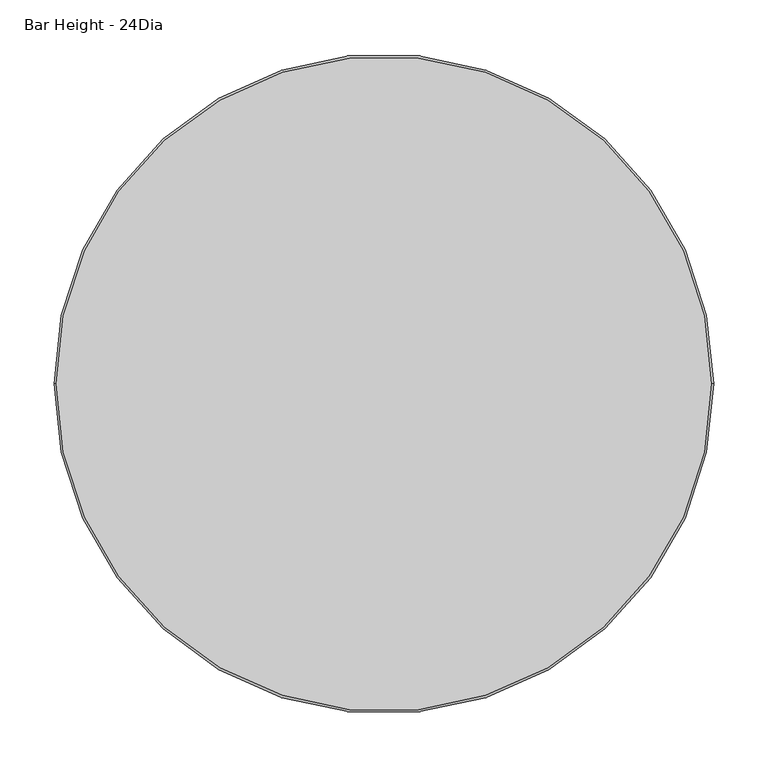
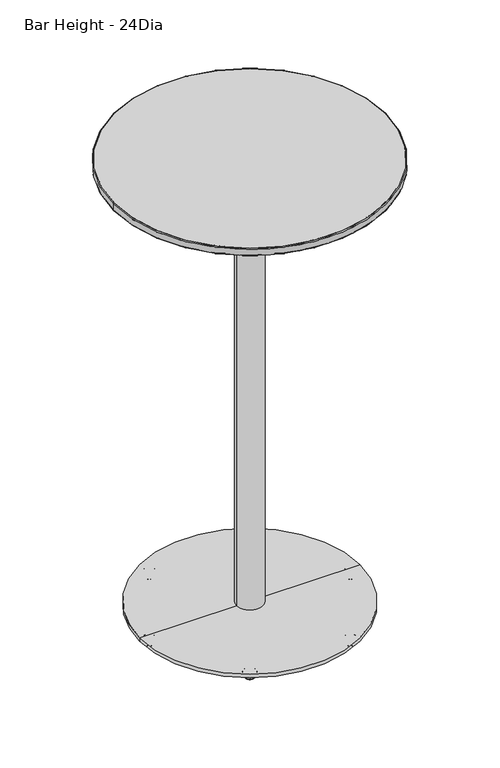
"""IFC4 building model written with IfcOpenShell, lengths in millimetres: furniture geometry, Coalesse_AM_Table_Occasional_Montara650Table_CafeHeight_Round : Bar Height - 24Dia."""

from ifc_helpers import new_model, si_unit, point, frame, origin, origin_with_axes, origin_2d, place, context, project, spatial, polyline, circle_curve, ellipse_curve, trimmed, segment, composite_curve, outline, extrude, source, transform, mapped, element, save
from ifc_brep_helpers import plane_surface, cylinder_surface, revolved_surface, advanced_brep


def bar_height_24dia_15a52b91(model_context):
    return source(origin(), model_context, "Body", "SolidModel", [
        advanced_brep(
        [(-112.4946772, 194.8464965, 0.0), (-117.6867095, 203.8393602, 0.0), (-107.302645, 185.8536329, 0.0), (-118.0731448, 204.5086859, 0.5718943), (-106.9162096, 185.1843072, 0.5718943), (-119.6988534, 207.3244957, 11.2068005), (-105.290501, 182.3684973, 11.2068005), (-119.4053894, 206.8162011, 11.9999882), (-105.5839651, 182.8767919, 11.9999882), (-112.4946772, 194.8464965, 11.9999882)],
        [
            (0, 1),
            (1, 2, circle_curve(frame((-112.4946772, 194.8464965, 0.0), z_axis=(0.0, 0.0, -1.0), x_axis=(-0.5000000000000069, 0.8660254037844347, 0.0)), 10.3840645)),
            (2, 0),
            (2, 1, circle_curve(frame((-112.4946772, 194.8464965, 0.0), z_axis=(0.0, 0.0, -1.0), x_axis=(-0.5000000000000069, 0.8660254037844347, 0.0)), 10.3840645)),
            (1, 3, circle_curve(frame((-117.6867095, 203.8393602, 0.8081846), z_axis=(0.8660254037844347, 0.5000000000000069, 0.0), x_axis=(-0.5000000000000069, 0.8660254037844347, 0.0)), 0.8081846)),
            (3, 4, circle_curve(frame((-112.4946772, 194.8464965, 0.5718943), z_axis=(0.0, 0.0, -1.0), x_axis=(-0.5000000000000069, 0.8660254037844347, 0.0)), 11.1569353)),
            (4, 2, circle_curve(frame((-107.302645, 185.8536329, 0.8081846), z_axis=(0.866025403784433, 0.5000000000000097, 0.0), x_axis=(0.5000000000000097, -0.866025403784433, 0.0)), 0.8081846)),
            (4, 3, circle_curve(frame((-112.4946772, 194.8464965, 0.5718943), z_axis=(0.0, 0.0, -1.0), x_axis=(-0.5000000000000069, 0.8660254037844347, 0.0)), 11.1569353)),
            (3, 5),
            (5, 6, circle_curve(frame((-112.4946772, 194.8464965, 11.2068005), z_axis=(0.0, 0.0, -1.0), x_axis=(-0.5000000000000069, 0.8660254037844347, 0.0)), 14.4083524)),
            (6, 4),
            (6, 5, circle_curve(frame((-112.4946772, 194.8464965, 11.2068005), z_axis=(0.0, 0.0, -1.0), x_axis=(-0.5000000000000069, 0.8660254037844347, 0.0)), 14.4083524)),
            (5, 7, circle_curve(frame((-119.4053894, 206.8162011, 11.3862424), z_axis=(0.8660254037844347, 0.5000000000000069, 0.0), x_axis=(-0.5000000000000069, 0.8660254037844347, 0.0)), 0.6137458)),
            (7, 8, circle_curve(frame((-112.4946772, 194.8464965, 11.9999882), z_axis=(0.0, 0.0, -1.0), x_axis=(-0.5000000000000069, 0.8660254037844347, 0.0)), 13.8214243)),
            (8, 6, circle_curve(frame((-105.5839651, 182.8767919, 11.3862424), z_axis=(0.866025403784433, 0.5000000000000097, 0.0), x_axis=(0.5000000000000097, -0.866025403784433, 0.0)), 0.6137458)),
            (8, 7, circle_curve(frame((-112.4946772, 194.8464965, 11.9999882), z_axis=(0.0, 0.0, -1.0), x_axis=(-0.5000000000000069, 0.8660254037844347, 0.0)), 13.8214243)),
            (7, 9),
            (9, 8),
        ],
        [
            plane_surface(frame((-112.4946772, 194.8464965, 0.0), z_axis=(0.0, 0.0, -1.0), x_axis=(-0.5000000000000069, 0.8660254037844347, 0.0))),
            revolved_surface(trimmed(ellipse_curve(frame((-117.6867095, 203.8393602, 0.8081846), z_axis=(-0.8660254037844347, -0.5000000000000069, 0.0), x_axis=(-0.5000000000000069, 0.8660254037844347, 0.0)), 0.8081846, 0.8081846), [point((-118.0731448, 204.5086859, 0.5718943))], [point((-117.6867095, 203.8393602, 0.0))], True, "CARTESIAN"), (-112.4946772, 194.8464965, 12.2086845), (0.0, 0.0, -1.0)),
            revolved_surface(polyline([(-119.6988534, 207.3244957, 11.2068005), (-118.0731448, 204.5086859, 0.5718943)]), (-112.4946772, 194.8464965, 12.2086845), (0.0, 0.0, -1.0)),
            revolved_surface(trimmed(ellipse_curve(frame((-119.4053894, 206.8162011, 11.3862424), z_axis=(-0.8660254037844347, -0.5000000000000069, 0.0), x_axis=(-0.5000000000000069, 0.8660254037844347, 0.0)), 0.6137458, 0.6137458), [point((-119.4053894, 206.8162011, 11.9999882))], [point((-119.6988534, 207.3244957, 11.2068005))], True, "CARTESIAN"), (-112.4946772, 194.8464965, 12.2086845), (0.0, 0.0, -1.0)),
            plane_surface(frame((-112.4946772, 194.8464965, 11.9999882), z_axis=(0.0, 0.0, 1.0), x_axis=(-0.5000000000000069, 0.8660254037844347, 0.0))),
        ],
        [
            (0, [[1, 2, 3]]),
            (0, [[-3, 4, -1]]),
            (1, [[-2, 5, 6, 7]]),
            (1, [[-4, -7, 8, -5]]),
            (2, [[-6, 9, 10, 11]]),
            (2, [[-8, -11, 12, -9]]),
            (3, [[-10, 13, 14, 15]]),
            (3, [[-12, -15, 16, -13]]),
            (4, [[-14, 17, 18]]),
            (4, [[-16, -18, -17]]),
        ],
    ),
        advanced_brep(
        [(107.302645, -185.8536329, 0.0), (117.6867095, -203.8393602, 0.0), (112.4946772, -194.8464965, 0.0), (106.9162096, -185.1843072, 0.5718943), (118.0731448, -204.5086859, 0.5718943), (105.290501, -182.3684973, 11.2068005), (119.6988534, -207.3244957, 11.2068005), (105.5839651, -182.8767919, 11.9999882), (119.4053894, -206.8162011, 11.9999882), (112.4946772, -194.8464965, 11.9999882)],
        [
            (0, 1, circle_curve(frame((112.4946772, -194.8464965, 0.0), z_axis=(0.0, 0.0, -1.0), x_axis=(0.5000000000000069, -0.8660254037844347, 0.0)), 10.3840645)),
            (1, 2),
            (2, 0),
            (1, 0, circle_curve(frame((112.4946772, -194.8464965, 0.0), z_axis=(0.0, 0.0, -1.0), x_axis=(0.5000000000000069, -0.8660254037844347, 0.0)), 10.3840645)),
            (3, 4, circle_curve(frame((112.4946772, -194.8464965, 0.5718943), z_axis=(0.0, 0.0, -1.0), x_axis=(0.5000000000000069, -0.8660254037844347, 0.0)), 11.1569353)),
            (4, 1, circle_curve(frame((117.6867095, -203.8393602, 0.8081846), z_axis=(0.8660254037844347, 0.5000000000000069, 0.0), x_axis=(0.5000000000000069, -0.8660254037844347, 0.0)), 0.8081846)),
            (0, 3, circle_curve(frame((107.302645, -185.8536329, 0.8081846), z_axis=(0.8660254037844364, 0.5000000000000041, 0.0), x_axis=(-0.5000000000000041, 0.8660254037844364, 0.0)), 0.8081846)),
            (4, 3, circle_curve(frame((112.4946772, -194.8464965, 0.5718943), z_axis=(0.0, 0.0, -1.0), x_axis=(0.5000000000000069, -0.8660254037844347, 0.0)), 11.1569353)),
            (5, 6, circle_curve(frame((112.4946772, -194.8464965, 11.2068005), z_axis=(0.0, 0.0, -1.0), x_axis=(0.5000000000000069, -0.8660254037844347, 0.0)), 14.4083524)),
            (6, 4),
            (3, 5),
            (6, 5, circle_curve(frame((112.4946772, -194.8464965, 11.2068005), z_axis=(0.0, 0.0, -1.0), x_axis=(0.5000000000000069, -0.8660254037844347, 0.0)), 14.4083524)),
            (7, 8, circle_curve(frame((112.4946772, -194.8464965, 11.9999882), z_axis=(0.0, 0.0, -1.0), x_axis=(0.5000000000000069, -0.8660254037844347, 0.0)), 13.8214243)),
            (8, 6, circle_curve(frame((119.4053894, -206.8162011, 11.3862424), z_axis=(0.8660254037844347, 0.5000000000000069, 0.0), x_axis=(0.5000000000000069, -0.8660254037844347, 0.0)), 0.6137458)),
            (5, 7, circle_curve(frame((105.5839651, -182.8767919, 11.3862424), z_axis=(0.8660254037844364, 0.5000000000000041, 0.0), x_axis=(-0.5000000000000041, 0.8660254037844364, 0.0)), 0.6137458)),
            (8, 7, circle_curve(frame((112.4946772, -194.8464965, 11.9999882), z_axis=(0.0, 0.0, -1.0), x_axis=(0.5000000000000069, -0.8660254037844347, 0.0)), 13.8214243)),
            (9, 8),
            (7, 9),
        ],
        [
            plane_surface(frame((112.4946772, -194.8464965, 0.0), z_axis=(0.0, 0.0, -1.0), x_axis=(0.5000000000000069, -0.8660254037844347, 0.0))),
            revolved_surface(trimmed(ellipse_curve(frame((117.6867095, -203.8393602, 0.8081846), z_axis=(-0.8660254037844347, -0.5000000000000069, 0.0), x_axis=(0.5000000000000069, -0.8660254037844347, 0.0)), 0.8081846, 0.8081846), [point((117.6867095, -203.8393602, 0.0))], [point((118.0731448, -204.5086859, 0.5718943))], True, "CARTESIAN"), (112.4946772, -194.8464965, 12.2086845), (0.0, 0.0, 1.0)),
            revolved_surface(polyline([(118.0731448, -204.5086859, 0.5718943), (119.6988534, -207.3244957, 11.2068005)]), (112.4946772, -194.8464965, 12.2086845), (0.0, 0.0, 1.0)),
            revolved_surface(trimmed(ellipse_curve(frame((119.4053894, -206.8162011, 11.3862424), z_axis=(-0.8660254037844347, -0.5000000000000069, 0.0), x_axis=(0.5000000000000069, -0.8660254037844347, 0.0)), 0.6137458, 0.6137458), [point((119.6988534, -207.3244957, 11.2068005))], [point((119.4053894, -206.8162011, 11.9999882))], True, "CARTESIAN"), (112.4946772, -194.8464965, 12.2086845), (0.0, 0.0, 1.0)),
            plane_surface(frame((112.4946772, -194.8464965, 11.9999882), z_axis=(0.0, 0.0, 1.0), x_axis=(0.5000000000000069, -0.8660254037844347, 0.0))),
        ],
        [
            (0, [[1, 2, 3]]),
            (0, [[4, -3, -2]]),
            (1, [[5, 6, -1, 7]]),
            (1, [[8, -7, -4, -6]]),
            (2, [[9, 10, -5, 11]]),
            (2, [[12, -11, -8, -10]]),
            (3, [[13, 14, -9, 15]]),
            (3, [[16, -15, -12, -14]]),
            (4, [[17, -13, 18]]),
            (4, [[-18, -16, -17]]),
        ],
    ),
        advanced_brep(
        [(104.863739, 174.0655874, 0.0), (115.2478035, 192.0513148, 0.0), (110.0557713, 183.0584511, 0.0), (104.4773036, 173.3962617, 0.5718943), (115.6342389, 192.7206405, 0.5718943), (102.8515951, 170.5804519, 11.2068005), (117.2599475, 195.5364503, 11.2068005), (103.1450591, 171.0887465, 11.9999882), (116.9664834, 195.0281557, 11.9999882), (110.0557713, 183.0584511, 11.9999882)],
        [
            (0, 1, circle_curve(frame((110.0557713, 183.0584511, 0.0), z_axis=(0.0, 0.0, -1.0), x_axis=(0.5000000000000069, 0.8660254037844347, 0.0)), 10.3840645)),
            (1, 2),
            (2, 0),
            (1, 0, circle_curve(frame((110.0557713, 183.0584511, 0.0), z_axis=(0.0, 0.0, -1.0), x_axis=(0.5000000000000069, 0.8660254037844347, 0.0)), 10.3840645)),
            (3, 4, circle_curve(frame((110.0557713, 183.0584511, 0.5718943), z_axis=(0.0, 0.0, -1.0), x_axis=(0.5000000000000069, 0.8660254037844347, 0.0)), 11.1569353)),
            (4, 1, circle_curve(frame((115.2478035, 192.0513148, 0.8081846), z_axis=(-0.8660254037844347, 0.5000000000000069, 0.0), x_axis=(0.5000000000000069, 0.8660254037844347, 0.0)), 0.8081846)),
            (0, 3, circle_curve(frame((104.863739, 174.0655874, 0.8081846), z_axis=(-0.866025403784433, 0.5000000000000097, 0.0), x_axis=(-0.5000000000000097, -0.866025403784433, 0.0)), 0.8081846)),
            (4, 3, circle_curve(frame((110.0557713, 183.0584511, 0.5718943), z_axis=(0.0, 0.0, -1.0), x_axis=(0.5000000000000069, 0.8660254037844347, 0.0)), 11.1569353)),
            (5, 6, circle_curve(frame((110.0557713, 183.0584511, 11.2068005), z_axis=(0.0, 0.0, -1.0), x_axis=(0.5000000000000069, 0.8660254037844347, 0.0)), 14.4083524)),
            (6, 4),
            (3, 5),
            (6, 5, circle_curve(frame((110.0557713, 183.0584511, 11.2068005), z_axis=(0.0, 0.0, -1.0), x_axis=(0.5000000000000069, 0.8660254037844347, 0.0)), 14.4083524)),
            (7, 8, circle_curve(frame((110.0557713, 183.0584511, 11.9999882), z_axis=(0.0, 0.0, -1.0), x_axis=(0.5000000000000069, 0.8660254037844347, 0.0)), 13.8214243)),
            (8, 6, circle_curve(frame((116.9664834, 195.0281557, 11.3862424), z_axis=(-0.8660254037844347, 0.5000000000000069, 0.0), x_axis=(0.5000000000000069, 0.8660254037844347, 0.0)), 0.6137458)),
            (5, 7, circle_curve(frame((103.1450591, 171.0887465, 11.3862424), z_axis=(-0.866025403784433, 0.5000000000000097, 0.0), x_axis=(-0.5000000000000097, -0.866025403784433, 0.0)), 0.6137458)),
            (8, 7, circle_curve(frame((110.0557713, 183.0584511, 11.9999882), z_axis=(0.0, 0.0, -1.0), x_axis=(0.5000000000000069, 0.8660254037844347, 0.0)), 13.8214243)),
            (9, 8),
            (7, 9),
        ],
        [
            plane_surface(frame((110.0557713, 183.0584511, 0.0), z_axis=(0.0, 0.0, -1.0), x_axis=(0.5000000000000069, 0.8660254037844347, 0.0))),
            revolved_surface(trimmed(ellipse_curve(frame((115.2478035, 192.0513148, 0.8081846), z_axis=(0.8660254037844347, -0.5000000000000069, 0.0), x_axis=(0.5000000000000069, 0.8660254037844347, 0.0)), 0.8081846, 0.8081846), [point((115.2478035, 192.0513148, 0.0))], [point((115.6342389, 192.7206405, 0.5718943))], True, "CARTESIAN"), (110.0557713, 183.0584511, 12.2086845), (0.0, 0.0, 1.0)),
            revolved_surface(polyline([(115.6342389, 192.7206405, 0.5718943), (117.2599475, 195.5364503, 11.2068005)]), (110.0557713, 183.0584511, 12.2086845), (0.0, 0.0, 1.0)),
            revolved_surface(trimmed(ellipse_curve(frame((116.9664834, 195.0281557, 11.3862424), z_axis=(0.8660254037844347, -0.5000000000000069, 0.0), x_axis=(0.5000000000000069, 0.8660254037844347, 0.0)), 0.6137458, 0.6137458), [point((117.2599475, 195.5364503, 11.2068005))], [point((116.9664834, 195.0281557, 11.9999882))], True, "CARTESIAN"), (110.0557713, 183.0584511, 12.2086845), (0.0, 0.0, 1.0)),
            plane_surface(frame((110.0557713, 183.0584511, 11.9999882), z_axis=(0.0, 0.0, 1.0), x_axis=(0.5000000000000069, 0.8660254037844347, 0.0))),
        ],
        [
            (0, [[1, 2, 3]]),
            (0, [[4, -3, -2]]),
            (1, [[5, 6, -1, 7]]),
            (1, [[8, -7, -4, -6]]),
            (2, [[9, 10, -5, 11]]),
            (2, [[12, -11, -8, -10]]),
            (3, [[13, 14, -9, 15]]),
            (3, [[16, -15, -12, -14]]),
            (4, [[17, -13, 18]]),
            (4, [[-18, -16, -17]]),
        ],
    ),
        advanced_brep(
        [(-112.4946772, -194.8464965, 0.0), (-117.6867095, -203.8393602, 0.0), (-107.302645, -185.8536329, 0.0), (-118.0731448, -204.5086859, 0.5718943), (-106.9162096, -185.1843072, 0.5718943), (-119.6988534, -207.3244957, 11.2068005), (-105.290501, -182.3684973, 11.2068005), (-119.4053894, -206.8162011, 11.9999882), (-105.5839651, -182.8767919, 11.9999882), (-112.4946772, -194.8464965, 11.9999882)],
        [
            (0, 1),
            (1, 2, circle_curve(frame((-112.4946772, -194.8464965, 0.0), z_axis=(0.0, 0.0, -1.0), x_axis=(-0.5000000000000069, -0.8660254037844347, 0.0)), 10.3840645)),
            (2, 0),
            (2, 1, circle_curve(frame((-112.4946772, -194.8464965, 0.0), z_axis=(0.0, 0.0, -1.0), x_axis=(-0.5000000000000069, -0.8660254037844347, 0.0)), 10.3840645)),
            (1, 3, circle_curve(frame((-117.6867095, -203.8393602, 0.8081846), z_axis=(-0.8660254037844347, 0.5000000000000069, 0.0), x_axis=(-0.5000000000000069, -0.8660254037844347, 0.0)), 0.8081846)),
            (3, 4, circle_curve(frame((-112.4946772, -194.8464965, 0.5718943), z_axis=(0.0, 0.0, -1.0), x_axis=(-0.5000000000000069, -0.8660254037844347, 0.0)), 11.1569353)),
            (4, 2, circle_curve(frame((-107.302645, -185.8536329, 0.8081846), z_axis=(-0.8660254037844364, 0.5000000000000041, 0.0), x_axis=(0.5000000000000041, 0.8660254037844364, 0.0)), 0.8081846)),
            (4, 3, circle_curve(frame((-112.4946772, -194.8464965, 0.5718943), z_axis=(0.0, 0.0, -1.0), x_axis=(-0.5000000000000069, -0.8660254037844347, 0.0)), 11.1569353)),
            (3, 5),
            (5, 6, circle_curve(frame((-112.4946772, -194.8464965, 11.2068005), z_axis=(0.0, 0.0, -1.0), x_axis=(-0.5000000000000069, -0.8660254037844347, 0.0)), 14.4083524)),
            (6, 4),
            (6, 5, circle_curve(frame((-112.4946772, -194.8464965, 11.2068005), z_axis=(0.0, 0.0, -1.0), x_axis=(-0.5000000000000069, -0.8660254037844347, 0.0)), 14.4083524)),
            (5, 7, circle_curve(frame((-119.4053894, -206.8162011, 11.3862424), z_axis=(-0.8660254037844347, 0.5000000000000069, 0.0), x_axis=(-0.5000000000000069, -0.8660254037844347, 0.0)), 0.6137458)),
            (7, 8, circle_curve(frame((-112.4946772, -194.8464965, 11.9999882), z_axis=(0.0, 0.0, -1.0), x_axis=(-0.5000000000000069, -0.8660254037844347, 0.0)), 13.8214243)),
            (8, 6, circle_curve(frame((-105.5839651, -182.8767919, 11.3862424), z_axis=(-0.8660254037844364, 0.5000000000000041, 0.0), x_axis=(0.5000000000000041, 0.8660254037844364, 0.0)), 0.6137458)),
            (8, 7, circle_curve(frame((-112.4946772, -194.8464965, 11.9999882), z_axis=(0.0, 0.0, -1.0), x_axis=(-0.5000000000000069, -0.8660254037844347, 0.0)), 13.8214243)),
            (7, 9),
            (9, 8),
        ],
        [
            plane_surface(frame((-112.4946772, -194.8464965, 0.0), z_axis=(0.0, 0.0, -1.0), x_axis=(-0.5000000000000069, -0.8660254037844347, 0.0))),
            revolved_surface(trimmed(ellipse_curve(frame((-117.6867095, -203.8393602, 0.8081846), z_axis=(0.8660254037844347, -0.5000000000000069, 0.0), x_axis=(-0.5000000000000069, -0.8660254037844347, 0.0)), 0.8081846, 0.8081846), [point((-118.0731448, -204.5086859, 0.5718943))], [point((-117.6867095, -203.8393602, 0.0))], True, "CARTESIAN"), (-112.4946772, -194.8464965, 12.2086845), (0.0, 0.0, -1.0)),
            revolved_surface(polyline([(-119.6988534, -207.3244957, 11.2068005), (-118.0731448, -204.5086859, 0.5718943)]), (-112.4946772, -194.8464965, 12.2086845), (0.0, 0.0, -1.0)),
            revolved_surface(trimmed(ellipse_curve(frame((-119.4053894, -206.8162011, 11.3862424), z_axis=(0.8660254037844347, -0.5000000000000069, 0.0), x_axis=(-0.5000000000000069, -0.8660254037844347, 0.0)), 0.6137458, 0.6137458), [point((-119.4053894, -206.8162011, 11.9999882))], [point((-119.6988534, -207.3244957, 11.2068005))], True, "CARTESIAN"), (-112.4946772, -194.8464965, 12.2086845), (0.0, 0.0, -1.0)),
            plane_surface(frame((-112.4946772, -194.8464965, 11.9999882), z_axis=(0.0, 0.0, 1.0), x_axis=(-0.5000000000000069, -0.8660254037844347, 0.0))),
        ],
        [
            (0, [[1, 2, 3]]),
            (0, [[-3, 4, -1]]),
            (1, [[-2, 5, 6, 7]]),
            (1, [[-4, -7, 8, -5]]),
            (2, [[-6, 9, 10, 11]]),
            (2, [[-8, -11, 12, -9]]),
            (3, [[-10, 13, 14, 15]]),
            (3, [[-12, -15, 16, -13]]),
            (4, [[-14, 17, 18]]),
            (4, [[-16, -18, -17]]),
        ],
    ),
        advanced_brep(
        [(214.6052899, 0.0, 0.0), (235.3734189, 0.0, 0.0), (224.9893544, 0.0, 0.0), (213.8324192, 0.0, 0.5718943), (236.1462897, 0.0, 0.5718943), (210.5810021, 0.0, 11.2068005), (239.3977068, 0.0, 11.2068005), (211.1679301, 0.0, 11.9999882), (238.8107788, 0.0, 11.9999882), (224.9893544, 0.0, 11.9999882)],
        [
            (0, 1, circle_curve(frame((224.9893544, 0.0, 0.0), z_axis=(0.0, 0.0, -1.0), x_axis=(1.0, 0.0, 0.0)), 10.3840645)),
            (1, 2),
            (2, 0),
            (1, 0, circle_curve(frame((224.9893544, 0.0, 0.0), z_axis=(0.0, 0.0, -1.0), x_axis=(1.0, 0.0, 0.0)), 10.3840645)),
            (3, 4, circle_curve(frame((224.9893544, 0.0, 0.5718943), z_axis=(0.0, 0.0, -1.0), x_axis=(1.0, 0.0, 0.0)), 11.1569353)),
            (4, 1, circle_curve(frame((235.3734189, 0.0, 0.8081846), z_axis=(0.0, 1.0, 0.0), x_axis=(1.0, 0.0, 0.0)), 0.8081846)),
            (0, 3, circle_curve(frame((214.6052899, 0.0, 0.8081846), z_axis=(0.0, 1.0, 0.0), x_axis=(-1.0, 0.0, 0.0)), 0.8081846)),
            (4, 3, circle_curve(frame((224.9893544, 0.0, 0.5718943), z_axis=(0.0, 0.0, -1.0), x_axis=(1.0, 0.0, 0.0)), 11.1569353)),
            (5, 6, circle_curve(frame((224.9893544, 0.0, 11.2068005), z_axis=(0.0, 0.0, -1.0), x_axis=(1.0, 0.0, 0.0)), 14.4083524)),
            (6, 4),
            (3, 5),
            (6, 5, circle_curve(frame((224.9893544, 0.0, 11.2068005), z_axis=(0.0, 0.0, -1.0), x_axis=(1.0, 0.0, 0.0)), 14.4083524)),
            (7, 8, circle_curve(frame((224.9893544, 0.0, 11.9999882), z_axis=(0.0, 0.0, -1.0), x_axis=(1.0, 0.0, 0.0)), 13.8214243)),
            (8, 6, circle_curve(frame((238.8107788, 0.0, 11.3862424), z_axis=(0.0, 1.0, 0.0), x_axis=(1.0, 0.0, 0.0)), 0.6137458)),
            (5, 7, circle_curve(frame((211.1679301, 0.0, 11.3862424), z_axis=(0.0, 1.0, 0.0), x_axis=(-1.0, 0.0, 0.0)), 0.6137458)),
            (8, 7, circle_curve(frame((224.9893544, 0.0, 11.9999882), z_axis=(0.0, 0.0, -1.0), x_axis=(1.0, 0.0, 0.0)), 13.8214243)),
            (9, 8),
            (7, 9),
        ],
        [
            plane_surface(frame((224.9893544, 0.0, 0.0), z_axis=(0.0, 0.0, -1.0), x_axis=(1.0, 0.0, 0.0))),
            revolved_surface(trimmed(ellipse_curve(frame((235.3734189, 0.0, 0.8081846), z_axis=(0.0, -1.0, 0.0), x_axis=(1.0, 0.0, 0.0)), 0.8081846, 0.8081846), [point((235.3734189, 0.0, 0.0))], [point((236.1462897, 0.0, 0.5718943))], True, "CARTESIAN"), (224.9893544, 0.0, 12.2086845), (0.0, 0.0, 1.0)),
            revolved_surface(polyline([(236.1462897, 0.0, 0.5718943), (239.3977068, 0.0, 11.2068005)]), (224.9893544, 0.0, 12.2086845), (0.0, 0.0, 1.0)),
            revolved_surface(trimmed(ellipse_curve(frame((238.8107788, 0.0, 11.3862424), z_axis=(0.0, -1.0, 0.0), x_axis=(1.0, 0.0, 0.0)), 0.6137458, 0.6137458), [point((239.3977068, 0.0, 11.2068005))], [point((238.8107788, 0.0, 11.9999882))], True, "CARTESIAN"), (224.9893544, 0.0, 12.2086845), (0.0, 0.0, 1.0)),
            plane_surface(frame((224.9893544, 0.0, 11.9999882), z_axis=(0.0, 0.0, 1.0), x_axis=(1.0, 0.0, 0.0))),
        ],
        [
            (0, [[1, 2, 3]]),
            (0, [[4, -3, -2]]),
            (1, [[5, 6, -1, 7]]),
            (1, [[8, -7, -4, -6]]),
            (2, [[9, 10, -5, 11]]),
            (2, [[12, -11, -8, -10]]),
            (3, [[13, 14, -9, 15]]),
            (3, [[16, -15, -12, -14]]),
            (4, [[17, -13, 18]]),
            (4, [[-18, -16, -17]]),
        ],
    ),
        advanced_brep(
        [(-258.064, 0.0, 1036.830027), (258.064, 0.0, 1036.830027), (-302.768, 0.0, 1049.095891), (302.768, 0.0, 1049.095891)],
        [
            (0, 1, circle_curve(frame((0.0, 0.0, 1036.830027), z_axis=(0.0, 0.0, -1.0), x_axis=(-1.0, 0.0, 0.0)), 258.064)),
            (1, 0, circle_curve(frame((0.0, 0.0, 1036.830027), z_axis=(0.0, 0.0, -1.0), x_axis=(1.0, 0.0, 0.0)), 258.064)),
            (2, 3, circle_curve(frame((0.0, 0.0, 1049.095891), z_axis=(0.0, 0.0, 1.0), x_axis=(1.0, 0.0, 0.0)), 302.768)),
            (3, 2, circle_curve(frame((0.0, 0.0, 1049.095891), z_axis=(0.0, 0.0, 1.0), x_axis=(-1.0, 0.0, 0.0)), 302.768)),
            (2, 0),
            (1, 3),
        ],
        [
            plane_surface(frame((0.0, 0.0, 1036.830027), z_axis=(0.0, 0.0, -1.0), x_axis=(0.0, -1.0, 0.0))),
            plane_surface(frame((0.0, 0.0, 1049.095891), z_axis=(0.0, 0.0, 1.0), x_axis=(0.0, -1.0, 0.0))),
            revolved_surface(polyline([(258.0639998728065, 0.0, 1036.830027), (302.768, 0.0, 1049.095891)]), (0.0, 0.0, 966.0225396), (0.0, 0.0, 1.0)),
            revolved_surface(polyline([(-258.0639998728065, 0.0, 1036.830027), (-302.768, 0.0, 1049.095891)]), (0.0, 0.0, 966.0225396), (0.0, 0.0, 1.0)),
        ],
        [
            (0, [[1, 2]]),
            (1, [[3, 4]]),
            (2, [[-3, 5, -2, 6]]),
            (3, [[-4, -6, -1, -5]]),
        ],
    ),
        extrude(outline(composite_curve([segment(trimmed(circle_curve(origin_2d(), 302.768), [point((-302.768, 0.0))], [point((302.768, 0.0))], False, "CARTESIAN"), True, "CONTINUOUS"), segment(trimmed(circle_curve(origin_2d(), 302.768), [point((302.768, 0.0))], [point((-302.768, 0.0))], False, "CARTESIAN"), True, "CONTINUOUS")], self_intersect=False)), frame((0.0, 0.0, 1049.095891), z_axis=(0.0, 0.0, 1.0), x_axis=(1.0, 0.0, 0.0)), (0.0, 0.0, 1.0), 17.704109),
        advanced_brep(
        [(-224.9893544, 0.0, 0.0), (-235.3734189, 0.0, 0.0), (-214.6052899, 0.0, 0.0), (-236.1462897, 0.0, 0.5718943), (-213.8324192, 0.0, 0.5718943), (-239.3977068, 0.0, 11.2068005), (-210.5810021, 0.0, 11.2068005), (-238.8107788, 0.0, 11.9999882), (-211.1679301, 0.0, 11.9999882), (-224.9893544, 0.0, 11.9999882)],
        [
            (0, 1),
            (1, 2, circle_curve(frame((-224.9893544, 0.0, 0.0), z_axis=(0.0, 0.0, -1.0), x_axis=(-1.0, 0.0, 0.0)), 10.3840645)),
            (2, 0),
            (2, 1, circle_curve(frame((-224.9893544, 0.0, 0.0), z_axis=(0.0, 0.0, -1.0), x_axis=(-1.0, 0.0, 0.0)), 10.3840645)),
            (1, 3, circle_curve(frame((-235.3734189, 0.0, 0.8081846), z_axis=(0.0, 1.0, 0.0), x_axis=(-1.0, 0.0, 0.0)), 0.8081846)),
            (3, 4, circle_curve(frame((-224.9893544, 0.0, 0.5718943), z_axis=(0.0, 0.0, -1.0), x_axis=(-1.0, 0.0, 0.0)), 11.1569353)),
            (4, 2, circle_curve(frame((-214.6052899, 0.0, 0.8081846), z_axis=(0.0, 1.0, 0.0), x_axis=(1.0, 0.0, 0.0)), 0.8081846)),
            (4, 3, circle_curve(frame((-224.9893544, 0.0, 0.5718943), z_axis=(0.0, 0.0, -1.0), x_axis=(-1.0, 0.0, 0.0)), 11.1569353)),
            (3, 5),
            (5, 6, circle_curve(frame((-224.9893544, 0.0, 11.2068005), z_axis=(0.0, 0.0, -1.0), x_axis=(-1.0, 0.0, 0.0)), 14.4083524)),
            (6, 4),
            (6, 5, circle_curve(frame((-224.9893544, 0.0, 11.2068005), z_axis=(0.0, 0.0, -1.0), x_axis=(-1.0, 0.0, 0.0)), 14.4083524)),
            (5, 7, circle_curve(frame((-238.8107788, 0.0, 11.3862424), z_axis=(0.0, 1.0, 0.0), x_axis=(-1.0, 0.0, 0.0)), 0.6137458)),
            (7, 8, circle_curve(frame((-224.9893544, 0.0, 11.9999882), z_axis=(0.0, 0.0, -1.0), x_axis=(-1.0, 0.0, 0.0)), 13.8214243)),
            (8, 6, circle_curve(frame((-211.1679301, 0.0, 11.3862424), z_axis=(0.0, 1.0, 0.0), x_axis=(1.0, 0.0, 0.0)), 0.6137458)),
            (8, 7, circle_curve(frame((-224.9893544, 0.0, 11.9999882), z_axis=(0.0, 0.0, -1.0), x_axis=(-1.0, 0.0, 0.0)), 13.8214243)),
            (7, 9),
            (9, 8),
        ],
        [
            plane_surface(frame((-224.9893544, 0.0, 0.0), z_axis=(0.0, 0.0, -1.0), x_axis=(-1.0, 0.0, 0.0))),
            revolved_surface(trimmed(ellipse_curve(frame((-235.3734189, 0.0, 0.8081846), z_axis=(0.0, -1.0, 0.0), x_axis=(-1.0, 0.0, 0.0)), 0.8081846, 0.8081846), [point((-236.1462897, 0.0, 0.5718943))], [point((-235.3734189, 0.0, 0.0))], True, "CARTESIAN"), (-224.9893544, 0.0, 12.2086845), (0.0, 0.0, -1.0)),
            revolved_surface(polyline([(-239.3977068, 0.0, 11.2068005), (-236.1462897, 0.0, 0.5718943)]), (-224.9893544, 0.0, 12.2086845), (0.0, 0.0, -1.0)),
            revolved_surface(trimmed(ellipse_curve(frame((-238.8107788, 0.0, 11.3862424), z_axis=(0.0, -1.0, 0.0), x_axis=(-1.0, 0.0, 0.0)), 0.6137458, 0.6137458), [point((-238.8107788, 0.0, 11.9999882))], [point((-239.3977068, 0.0, 11.2068005))], True, "CARTESIAN"), (-224.9893544, 0.0, 12.2086845), (0.0, 0.0, -1.0)),
            plane_surface(frame((-224.9893544, 0.0, 11.9999882), z_axis=(0.0, 0.0, 1.0), x_axis=(-1.0, 0.0, 0.0))),
        ],
        [
            (0, [[1, 2, 3]]),
            (0, [[-3, 4, -1]]),
            (1, [[-2, 5, 6, 7]]),
            (1, [[-4, -7, 8, -5]]),
            (2, [[-6, 9, 10, 11]]),
            (2, [[-8, -11, 12, -9]]),
            (3, [[-10, 13, 14, 15]]),
            (3, [[-12, -15, 16, -13]]),
            (4, [[-14, 17, 18]]),
            (4, [[-16, -18, -17]]),
        ],
    ),
        advanced_brep(
        [(304.8438665, 0.0, 1051.0278467), (-304.8438665, 0.0, 1051.0278467), (-302.768, 0.0, 1049.095891), (302.768, 0.0, 1049.095891), (304.8438665, 0.0, 1064.7999283), (-304.8438665, 0.0, 1064.7999283), (302.768, 0.0, 1066.8), (-302.768, 0.0, 1066.8)],
        [
            (0, 1, circle_curve(frame((0.0, 0.0, 1051.0278467), z_axis=(0.0, 0.0, -1.0), x_axis=(-1.0, 0.0, 0.0)), 304.8438665)),
            (1, 2, circle_curve(frame((-302.9069224, 0.0, 1051.0278467), z_axis=(0.0, -1.0, 0.0), x_axis=(1.0, 0.0, 0.0)), 1.9369441)),
            (2, 3, circle_curve(frame((0.0, 0.0, 1049.095891), z_axis=(0.0, 0.0, 1.0), x_axis=(-1.0, 0.0, 0.0)), 302.768)),
            (3, 0, circle_curve(frame((302.9069224, 0.0, 1051.0278467), z_axis=(0.0, -1.0, 0.0), x_axis=(-1.0, 0.0, 0.0)), 1.9369441)),
            (4, 5, circle_curve(frame((0.0, 0.0, 1064.7999283), z_axis=(0.0, 0.0, -1.0), x_axis=(-1.0, 0.0, 0.0)), 304.8438665)),
            (5, 1),
            (0, 4),
            (6, 7, circle_curve(frame((0.0, 0.0, 1066.8), z_axis=(0.0, 0.0, -1.0), x_axis=(-1.0, 0.0, 0.0)), 302.768)),
            (7, 5, circle_curve(frame((-302.8424111, 0.0, 1064.7999283), z_axis=(0.0, -1.0, 0.0), x_axis=(1.0, 0.0, 0.0)), 2.0014554)),
            (4, 6, circle_curve(frame((302.8424111, 0.0, 1064.7999283), z_axis=(0.0, -1.0, 0.0), x_axis=(-1.0, 0.0, 0.0)), 2.0014554)),
            (2, 7),
            (6, 3),
            (1, 0, circle_curve(frame((0.0, 0.0, 1051.0278467), z_axis=(0.0, 0.0, -1.0), x_axis=(1.0, 0.0, 0.0)), 304.8438665)),
            (3, 2, circle_curve(frame((0.0, 0.0, 1049.095891), z_axis=(0.0, 0.0, 1.0), x_axis=(1.0, 0.0, 0.0)), 302.768)),
            (5, 4, circle_curve(frame((0.0, 0.0, 1064.7999283), z_axis=(0.0, 0.0, -1.0), x_axis=(1.0, 0.0, 0.0)), 304.8438665)),
            (7, 6, circle_curve(frame((0.0, 0.0, 1066.8), z_axis=(0.0, 0.0, -1.0), x_axis=(1.0, 0.0, 0.0)), 302.768)),
        ],
        [
            revolved_surface(trimmed(ellipse_curve(frame((-302.9069224, 0.0, 1051.0278467), z_axis=(0.0, 1.0, 0.0), x_axis=(1.0, 0.0, 0.0)), 1.9369441, 1.9369441), [point((-302.768, 0.0, 1049.095891))], [point((-304.8438665, 0.0, 1051.0278467))], True, "CARTESIAN"), (0.0, 0.0, 0.0), (0.0, 0.0, 1.0)),
            cylinder_surface(frame((0.0, 0.0, 0.0), z_axis=(0.0, 0.0, 1.0), x_axis=(-1.0, 0.0, 0.0)), 304.8438665),
            revolved_surface(trimmed(ellipse_curve(frame((-302.8424111, 0.0, 1064.7999283), z_axis=(0.0, 1.0, 0.0), x_axis=(1.0, 0.0, 0.0)), 2.0014554, 2.0014554), [point((-304.8438665, 0.0, 1064.7999283))], [point((-302.768, 0.0, 1066.8))], True, "CARTESIAN"), (0.0, 0.0, 0.0), (0.0, 0.0, 1.0)),
            revolved_surface(polyline([(-302.768, 0.0, 1066.8), (-302.768, 0.0, 1049.095891)]), (0.0, 0.0, 0.0), (0.0, 0.0, 1.0)),
            revolved_surface(trimmed(ellipse_curve(frame((302.9069224, 0.0, 1051.0278467), z_axis=(0.0, -1.0, 0.0), x_axis=(-1.0, 0.0, 0.0)), 1.9369441, 1.9369441), [point((302.768, 0.0, 1049.095891))], [point((304.8438665, 0.0, 1051.0278467))], True, "CARTESIAN"), (0.0, 0.0, 0.0), (0.0, 0.0, 1.0)),
            cylinder_surface(origin_with_axes(), 304.8438665),
            revolved_surface(trimmed(ellipse_curve(frame((302.8424111, 0.0, 1064.7999283), z_axis=(0.0, -1.0, 0.0), x_axis=(-1.0, 0.0, 0.0)), 2.0014554, 2.0014554), [point((304.8438665, 0.0, 1064.7999283))], [point((302.768, 0.0, 1066.8))], True, "CARTESIAN"), (0.0, 0.0, 0.0), (0.0, 0.0, 1.0)),
            revolved_surface(polyline([(302.768, 0.0, 1066.8), (302.768, 0.0, 1049.095891)]), (0.0, 0.0, 0.0), (0.0, 0.0, 1.0)),
        ],
        [
            (0, [[1, 2, 3, 4]]),
            (1, [[5, 6, -1, 7]]),
            (2, [[8, 9, -5, 10]]),
            (3, [[-3, 11, -8, 12]]),
            (4, [[13, -4, 14, -2]]),
            (5, [[15, -7, -13, -6]]),
            (6, [[16, -10, -15, -9]]),
            (7, [[-14, -12, -16, -11]]),
        ],
    ),
        advanced_brep(
        [(131.6004101, 0.0, 1033.655027), (-131.6004101, 0.0, 1033.655027), (-176.1626132, 0.0, 1033.655027), (176.1626132, 0.0, 1033.655027), (121.0488662, 0.0, 1032.5460151), (-121.0488662, 0.0, 1032.5460151), (48.7461809, 0.0, 1017.8837029), (-48.7461809, 0.0, 1017.8837029), (37.412985, 0.0, 1017.8837029), (-37.412985, 0.0, 1017.8837029), (29.5495828, 0.0, 19.9999965), (-29.5495828, 0.0, 19.9999965), (-29.5495828, 0.0, 1029.6852036), (29.5495828, 0.0, 1029.6852036), (246.3799842, 0.0, 19.9999965), (-246.3799842, 0.0, 19.9999965), (246.3799842, 0.0, 11.9999882), (-246.3799842, 0.0, 11.9999882), (0.0, 0.0, 11.9999882), (176.1626132, 0.0, 1036.830027), (-176.1626132, 0.0, 1036.830027), (0.0, 0.0, 1036.830027), (33.3511087, 0.0, 1019.3383874), (-33.3511087, 0.0, 1019.3383874), (31.712334, 0.0, 1029.6852036), (-31.712334, 0.0, 1029.6852036)],
        [
            (0, 1, circle_curve(frame((0.0, 0.0, 1033.655027), z_axis=(0.0, 0.0, 1.0), x_axis=(-1.0, 0.0, 0.0)), 131.6004101)),
            (1, 2),
            (2, 3, circle_curve(frame((0.0, 0.0, 1033.655027), z_axis=(0.0, 0.0, -1.0), x_axis=(-1.0, 0.0, 0.0)), 176.1626132)),
            (3, 0),
            (1, 0, circle_curve(frame((0.0, 0.0, 1033.655027), z_axis=(0.0, 0.0, 1.0), x_axis=(-1.0, 0.0, 0.0)), 131.6004101)),
            (3, 2, circle_curve(frame((0.0, 0.0, 1033.655027), z_axis=(0.0, 0.0, -1.0), x_axis=(-1.0, 0.0, 0.0)), 176.1626132)),
            (4, 5, circle_curve(frame((0.0, 0.0, 1032.5460151), z_axis=(0.0, 0.0, 1.0), x_axis=(-1.0, 0.0, 0.0)), 121.0488662)),
            (5, 1),
            (0, 4),
            (5, 4, circle_curve(frame((0.0, 0.0, 1032.5460151), z_axis=(0.0, 0.0, 1.0), x_axis=(-1.0, 0.0, 0.0)), 121.0488662)),
            (6, 7, circle_curve(frame((0.0, 0.0, 1017.8837029), z_axis=(0.0, 0.0, 1.0), x_axis=(-1.0, 0.0, 0.0)), 48.7461809)),
            (7, 5),
            (4, 6),
            (7, 6, circle_curve(frame((0.0, 0.0, 1017.8837029), z_axis=(0.0, 0.0, 1.0), x_axis=(-1.0, 0.0, 0.0)), 48.7461809)),
            (8, 9, circle_curve(frame((0.0, 0.0, 1017.8837029), z_axis=(0.0, 0.0, 1.0), x_axis=(-1.0, 0.0, 0.0)), 37.412985)),
            (9, 7),
            (6, 8),
            (9, 8, circle_curve(frame((0.0, 0.0, 1017.8837029), z_axis=(0.0, 0.0, 1.0), x_axis=(-1.0, 0.0, 0.0)), 37.412985)),
            (10, 11, circle_curve(frame((0.0, 0.0, 19.9999965), z_axis=(0.0, 0.0, 1.0), x_axis=(-1.0, 0.0, 0.0)), 29.5495828)),
            (11, 12),
            (12, 13, circle_curve(frame((0.0, 0.0, 1029.6852036), z_axis=(0.0, 0.0, -1.0), x_axis=(-1.0, 0.0, 0.0)), 29.5495828)),
            (13, 10),
            (11, 10, circle_curve(frame((0.0, 0.0, 19.9999965), z_axis=(0.0, 0.0, 1.0), x_axis=(-1.0, 0.0, 0.0)), 29.5495828)),
            (13, 12, circle_curve(frame((0.0, 0.0, 1029.6852036), z_axis=(0.0, 0.0, -1.0), x_axis=(-1.0, 0.0, 0.0)), 29.5495828)),
            (14, 15, circle_curve(frame((0.0, 0.0, 19.9999965), z_axis=(0.0, 0.0, 1.0), x_axis=(-1.0, 0.0, 0.0)), 246.3799842)),
            (15, 11),
            (10, 14),
            (15, 14, circle_curve(frame((0.0, 0.0, 19.9999965), z_axis=(0.0, 0.0, 1.0), x_axis=(-1.0, 0.0, 0.0)), 246.3799842)),
            (16, 17, circle_curve(frame((0.0, 0.0, 11.9999882), z_axis=(0.0, 0.0, 1.0), x_axis=(-1.0, 0.0, 0.0)), 246.3799842)),
            (17, 15),
            (14, 16),
            (17, 16, circle_curve(frame((0.0, 0.0, 11.9999882), z_axis=(0.0, 0.0, 1.0), x_axis=(-1.0, 0.0, 0.0)), 246.3799842)),
            (18, 17),
            (16, 18),
            (19, 20, circle_curve(frame((0.0, 0.0, 1036.830027), z_axis=(0.0, 0.0, 1.0), x_axis=(-1.0, 0.0, 0.0)), 176.1626132)),
            (20, 21),
            (21, 19),
            (20, 19, circle_curve(frame((0.0, 0.0, 1036.830027), z_axis=(0.0, 0.0, 1.0), x_axis=(-1.0, 0.0, 0.0)), 176.1626132)),
            (2, 20),
            (19, 3),
            (22, 23, circle_curve(frame((0.0, 0.0, 1019.3383874), z_axis=(0.0, 0.0, 1.0), x_axis=(-1.0, 0.0, 0.0)), 33.3511087)),
            (23, 9),
            (8, 22),
            (23, 22, circle_curve(frame((0.0, 0.0, 1019.3383874), z_axis=(0.0, 0.0, 1.0), x_axis=(-1.0, 0.0, 0.0)), 33.3511087)),
            (24, 25, circle_curve(frame((0.0, 0.0, 1029.6852036), z_axis=(0.0, 0.0, 1.0), x_axis=(-1.0, 0.0, 0.0)), 31.712334)),
            (25, 23),
            (22, 24),
            (25, 24, circle_curve(frame((0.0, 0.0, 1029.6852036), z_axis=(0.0, 0.0, 1.0), x_axis=(-1.0, 0.0, 0.0)), 31.712334)),
            (12, 25),
            (24, 13),
        ],
        [
            plane_surface(frame((0.0, 0.0, 1033.655027), z_axis=(0.0, 0.0, -1.0), x_axis=(-1.0, 0.0, 0.0))),
            revolved_surface(polyline([(-131.6004101, 0.0, 1033.655027), (-121.0488662, 0.0, 1032.5460151)]), (0.0, 0.0, 781.9999965), (0.0, 0.0, -1.0)),
            revolved_surface(polyline([(-121.0488662, 0.0, 1032.5460151), (-48.7461809, 0.0, 1017.8837029)]), (0.0, 0.0, 781.9999965), (0.0, 0.0, -1.0)),
            plane_surface(frame((0.0, 0.0, 1017.8837029), z_axis=(0.0, 0.0, -1.0), x_axis=(-1.0, 0.0, 0.0))),
            cylinder_surface(frame((0.0, 0.0, 781.9999965), z_axis=(0.0, 0.0, -1.0), x_axis=(-1.0, 0.0, 0.0)), 29.5495828),
            plane_surface(frame((0.0, 0.0, 19.9999965), z_axis=(0.0, 0.0, 1.0), x_axis=(-1.0, 0.0, 0.0))),
            cylinder_surface(frame((0.0, 0.0, 781.9999965), z_axis=(0.0, 0.0, -1.0), x_axis=(-1.0, 0.0, 0.0)), 246.3799842),
            plane_surface(frame((0.0, 0.0, 11.9999882), z_axis=(0.0, 0.0, -1.0), x_axis=(-1.0, 0.0, 0.0))),
            plane_surface(frame((0.0, 0.0, 1036.830027), z_axis=(0.0, 0.0, 1.0), x_axis=(-1.0, 0.0, 0.0))),
            cylinder_surface(frame((0.0, 0.0, 781.9999965), z_axis=(0.0, 0.0, -1.0), x_axis=(-1.0, 0.0, 0.0)), 176.1626132),
            revolved_surface(polyline([(-37.412985, 0.0, 1017.8837029), (-33.3511087, 0.0, 1019.3383874)]), (0.0, 0.0, 781.9999965), (0.0, 0.0, -1.0)),
            revolved_surface(polyline([(-33.3511087, 0.0, 1019.3383874), (-31.712334, 0.0, 1029.6852036)]), (0.0, 0.0, 781.9999965), (0.0, 0.0, -1.0)),
            plane_surface(frame((0.0, 0.0, 1029.6852036), z_axis=(0.0, 0.0, -1.0), x_axis=(-1.0, 0.0, 0.0))),
        ],
        [
            (0, [[1, 2, 3, 4]]),
            (0, [[5, -4, 6, -2]]),
            (1, [[7, 8, -1, 9]]),
            (1, [[10, -9, -5, -8]]),
            (2, [[11, 12, -7, 13]]),
            (2, [[14, -13, -10, -12]]),
            (3, [[15, 16, -11, 17]]),
            (3, [[18, -17, -14, -16]]),
            (4, [[19, 20, 21, 22]]),
            (4, [[23, -22, 24, -20]]),
            (5, [[25, 26, -19, 27]]),
            (5, [[28, -27, -23, -26]]),
            (6, [[29, 30, -25, 31]]),
            (6, [[32, -31, -28, -30]]),
            (7, [[33, -29, 34]]),
            (7, [[-34, -32, -33]]),
            (8, [[35, 36, 37]]),
            (8, [[38, -37, -36]]),
            (9, [[-3, 39, -35, 40]]),
            (9, [[-6, -40, -38, -39]]),
            (10, [[41, 42, -15, 43]]),
            (10, [[44, -43, -18, -42]]),
            (11, [[45, 46, -41, 47]]),
            (11, [[48, -47, -44, -46]]),
            (12, [[-21, 49, -45, 50]]),
            (12, [[-24, -50, -48, -49]]),
        ],
    ),
    ])


if __name__ == "__main__":
    model = new_model("IFC4")
    model_context = context("Model", 3, world=origin())
    ifc_project = project(units=[si_unit("LENGTHUNIT", "METRE", prefix="MILLI")], contexts=[model_context])
    site = spatial("IfcSite", under=ifc_project)
    building = spatial("IfcBuilding", under=site)
    placement = place(None, origin())
    bar_height_24dia_shape = bar_height_24dia_15a52b91(model_context)
    element("IfcFurniture", 1, ObjectType="Coalesse_AM_Table_Occasional_Montara650Table_CafeHeight_Round : Bar Height - 24Dia", at=placement, inside=building, context=model_context, shape_type="MappedRepresentation", body=[
        mapped(bar_height_24dia_shape, transform((0.0, 0.0, 0.0), x_axis=(1.0, 0.0, 0.0), y_axis=(0.0, 1.0, 0.0), z_axis=(0.0, 0.0, 1.0))),
    ])
    save(model, "model.ifc")
